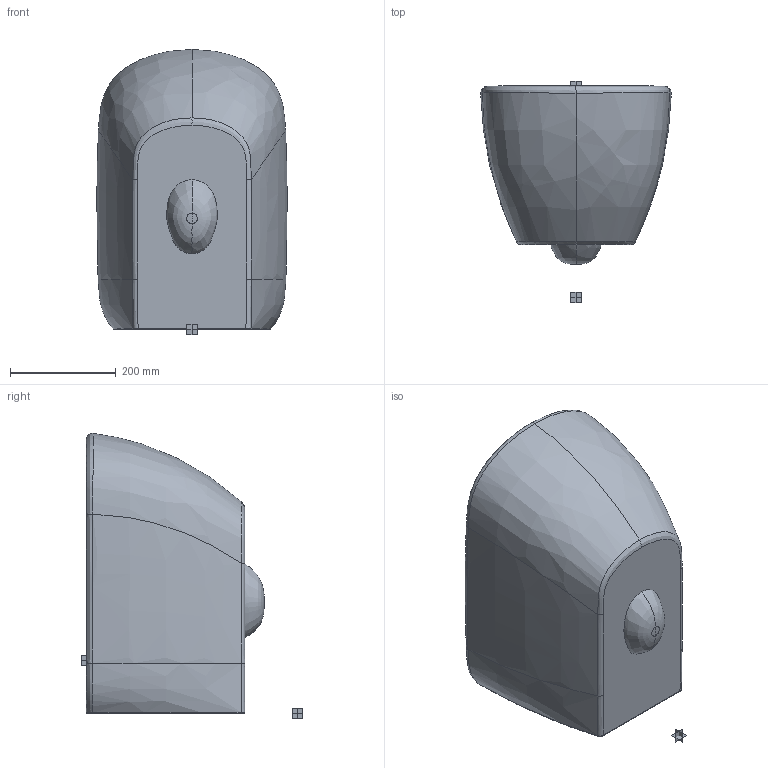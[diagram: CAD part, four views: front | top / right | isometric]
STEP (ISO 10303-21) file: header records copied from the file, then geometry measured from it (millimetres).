
FILE_DESCRIPTION((''),'2;1');
FILE_NAME('T3545_MK1_3DPL','2015-07-03T',('TotevD'),('AMERICAN STANDARD B&K'),'PRO/ENGINEER BY PARAMETRIC TECHNOLOGY CORPORATION, 2011330','PRO/ENGINEER BY PARAMETRIC TECHNOLOGY CORPORATION, 2011330','');
FILE_SCHEMA(('CONFIG_CONTROL_DESIGN'));
Length unit declared in the file: millimetre
Products named in the file (1): T3545_MK1_3DPL
Bounding box: 360.32 x 420 x 540.03 mm (x, y, z)
Volume: 41305609.5 mm3; surface area: 777527.9 mm2
Topology: 1 solids, 7 shells, 53 faces, 135 edges, 92 vertices
Faces by surface type: bspline 32, plane 11, cylinder 7, sphere 2, extrusion 1
Entity records: 8002 total; most frequent: CARTESIAN_POINT 6903, ORIENTED_EDGE 242, DIRECTION 150, EDGE_CURVE 133, VERTEX_POINT 92, B_SPLINE_CURVE_WITH_KNOTS 63, AXIS2_PLACEMENT_3D 57, EDGE_LOOP 57
